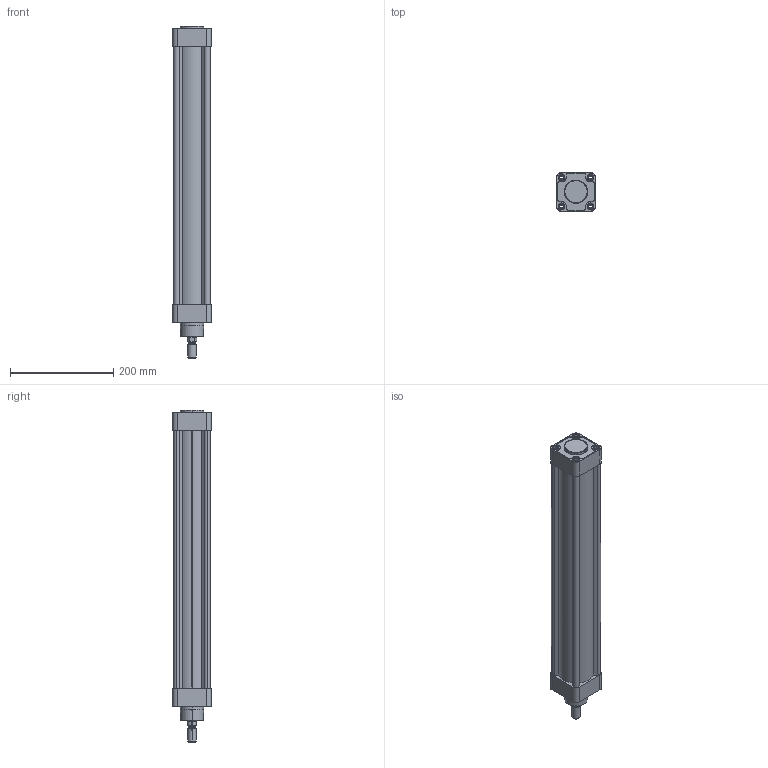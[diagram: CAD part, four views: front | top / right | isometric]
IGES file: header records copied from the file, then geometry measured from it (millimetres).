
Start section: SolidWorks IGES file using analytic representation for surfaces
Global section: file name: K:\Disegni Esecutivi\Cilindri\2_DISEGNI_cilindri_in_produzione\21_Cilindri blue air\1_CILINDRI SERIE BLUE AIR\E\E63\complessivo E63\EH0630000G\EH0630450G.igs; native system: SolidWorks 2013; preprocessor: SolidWorks 2013; author: Cad01; date: 140424.133222; units: millimetre
Bounding box: 75 x 75 x 644 mm (x, y, z)
Surface area: 255820.9 mm2 (no closed solid volume)
Topology: 0 solids, 0 shells, 342 faces, 4392 edges, 4392 vertices
Faces by surface type: revolution 197, bspline 145
